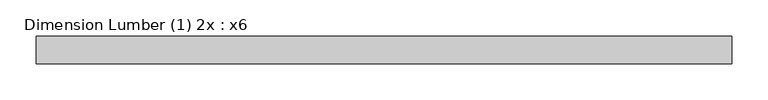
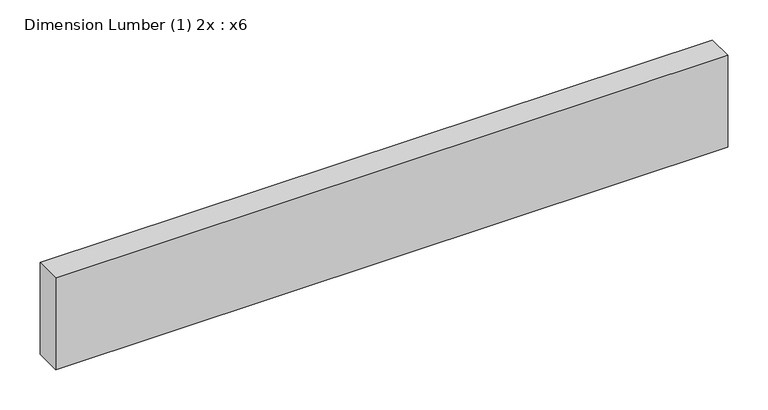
"""IFC4 building model written with IfcOpenShell, lengths in millimetres: beam geometry, Dimension Lumber (1) 2x : x6."""

from ifc_helpers import new_model, si_unit, frame, origin, place, context, project, spatial, polyline, outline, extrude, source, transform, mapped, element, save


def dimension_lumber_1_2x_x6_05b95841(model_context):
    return source(origin(), model_context, "Body", "SweptSolid", [
        extrude(outline(polyline([(454.025, 19.05), (454.025, -19.05), (-511.1749994, -19.05), (-511.1749994, 19.05), (454.025, 19.05)])), frame((0.0, 0.0, -69.85), z_axis=(0.0, 0.0, 1.0), x_axis=(1.0, 0.0, 0.0)), (0.0, 0.0, 1.0), 139.7),
    ])


if __name__ == "__main__":
    model = new_model("IFC4")
    model_context = context("Model", 3, world=origin())
    ifc_project = project(units=[si_unit("LENGTHUNIT", "METRE", prefix="MILLI")], contexts=[model_context])
    site = spatial("IfcSite", under=ifc_project)
    building = spatial("IfcBuilding", under=site)
    placement = place(None, origin())
    dimension_lumber_1_2x_x6_shape = dimension_lumber_1_2x_x6_05b95841(model_context)
    element("IfcBeam", 1, ObjectType="Dimension Lumber (1) 2x : x6", at=placement, inside=building, context=model_context, shape_type="MappedRepresentation", body=[
        mapped(dimension_lumber_1_2x_x6_shape, transform((0.0, 0.0, 0.0), x_axis=(1.0, 0.0, 0.0), y_axis=(0.0, 1.0, 0.0), z_axis=(0.0, 0.0, 1.0))),
    ])
    save(model, "model.ifc")
